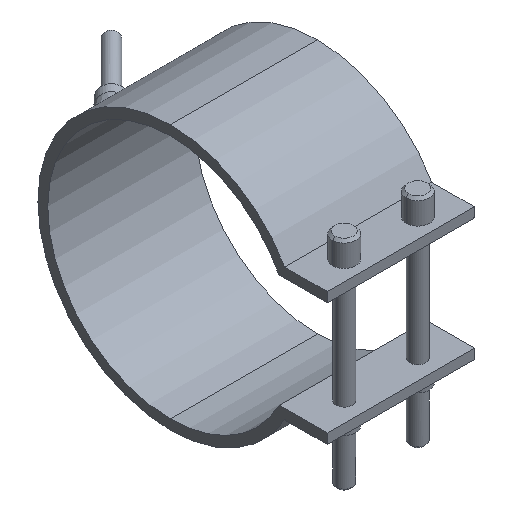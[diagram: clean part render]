
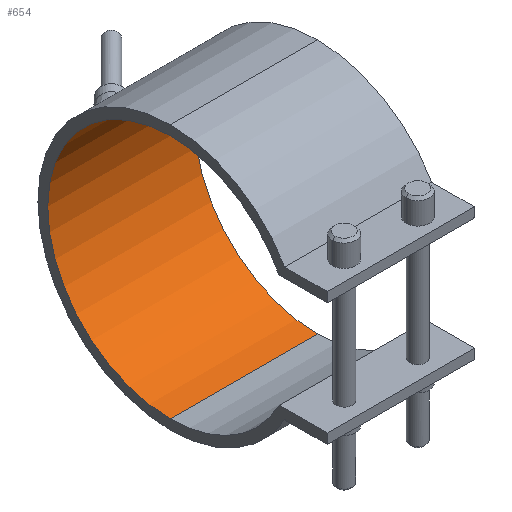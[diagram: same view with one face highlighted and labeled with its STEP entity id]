
A CAD part, isometric view. The second image highlights one B-rep face of the part: STEP entity #654.
In plain terms, the highlighted cylindrical face has radius 50 mm (diameter 100 mm), a partial arc.
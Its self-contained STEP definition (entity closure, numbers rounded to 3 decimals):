
#336=CARTESIAN_POINT('Vertex',(30.,0.,50.)) ;
#341=CARTESIAN_POINT('Axis2P3D Location',(30.,0.,0.)) ;
#345=CARTESIAN_POINT('Vertex',(30.,0.,-50.)) ;
#452=CARTESIAN_POINT('Vertex',(-30.,0.,-50.)) ;
#455=CARTESIAN_POINT('Axis2P3D Location',(-30.,0.,0.)) ;
#459=CARTESIAN_POINT('Vertex',(-30.,0.,50.)) ;
#626=CARTESIAN_POINT('Line Origine',(30.,0.,50.)) ;
#638=CARTESIAN_POINT('Axis2P3D Location',(30.,0.,0.)) ;
#643=CARTESIAN_POINT('Line Origine',(30.,0.,-50.)) ;
#342=DIRECTION('Axis2P3D Direction',(1.,0.,0.)) ;
#456=DIRECTION('Axis2P3D Direction',(1.,0.,0.)) ;
#627=DIRECTION('Vector Direction',(1.,0.,0.)) ;
#639=DIRECTION('Axis2P3D Direction',(1.,0.,-0.)) ;
#640=DIRECTION('Axis2P3D XDirection',(0.,0.,-1.)) ;
#644=DIRECTION('Vector Direction',(1.,0.,0.)) ;
#343=AXIS2_PLACEMENT_3D('Circle Axis2P3D',#341,#342,$) ;
#457=AXIS2_PLACEMENT_3D('Circle Axis2P3D',#455,#456,$) ;
#641=AXIS2_PLACEMENT_3D('Cylinder Axis2P3D',#638,#639,#640) ;
#649=ORIENTED_EDGE('',*,*,#347,.T.) ;
#650=ORIENTED_EDGE('',*,*,#630,.T.) ;
#651=ORIENTED_EDGE('',*,*,#461,.F.) ;
#652=ORIENTED_EDGE('',*,*,#647,.T.) ;
#628=VECTOR('Line Direction',#627,1.) ;
#645=VECTOR('Line Direction',#644,1.) ;
#654=ADVANCED_FACE('29100060',(#653),#642,.F.) ;
#344=CIRCLE('generated circle',#343,50.) ;
#458=CIRCLE('generated circle',#457,50.) ;
#642=CYLINDRICAL_SURFACE('generated cylinder',#641,50.) ;
#347=EDGE_CURVE('',#346,#337,#344,.T.) ;
#461=EDGE_CURVE('',#453,#460,#458,.T.) ;
#630=EDGE_CURVE('',#337,#460,#629,.F.) ;
#647=EDGE_CURVE('',#453,#346,#646,.T.) ;
#648=EDGE_LOOP('',(#649,#650,#651,#652)) ;
#653=FACE_OUTER_BOUND('',#648,.T.) ;
#629=LINE('Line',#626,#628) ;
#646=LINE('Line',#643,#645) ;
#337=VERTEX_POINT('',#336) ;
#346=VERTEX_POINT('',#345) ;
#453=VERTEX_POINT('',#452) ;
#460=VERTEX_POINT('',#459) ;
